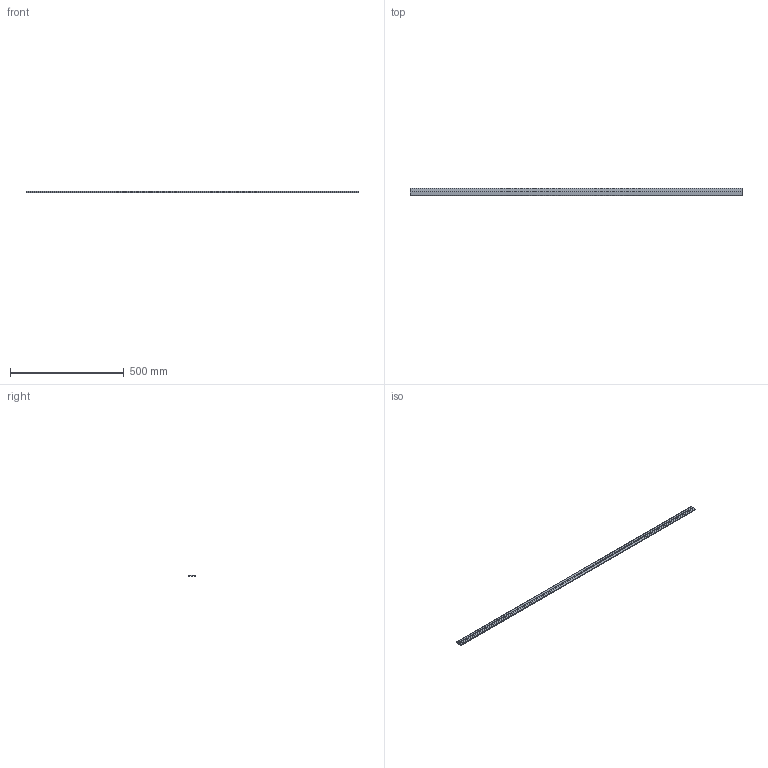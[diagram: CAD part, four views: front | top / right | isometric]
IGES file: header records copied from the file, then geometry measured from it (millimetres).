
Start section: C
Global section: file name: 01VYQ3PY02.igs; native system:  By UGS Corp.; preprocessor: XPlus GENERIC/IGES 3.0; author: Author; organization: Title; date: 20160930.120919; units: inch
Bounding box: 1457.6 x 30.9 x 5.96 mm (x, y, z)
Surface area: 114654.1 mm2 (no closed solid volume)
Topology: 0 solids, 0 shells, 29 faces, 162 edges, 162 vertices
Faces by surface type: bspline 29
